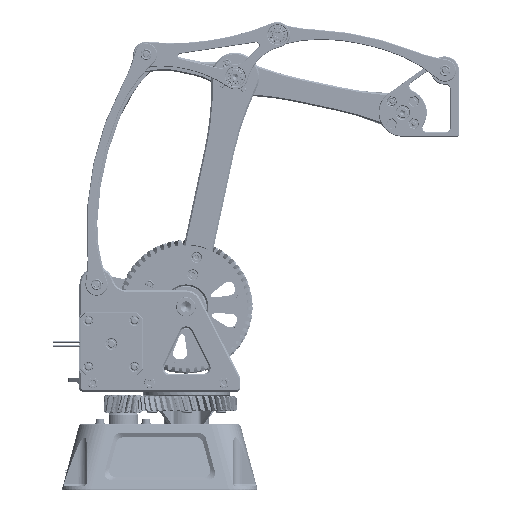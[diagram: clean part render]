
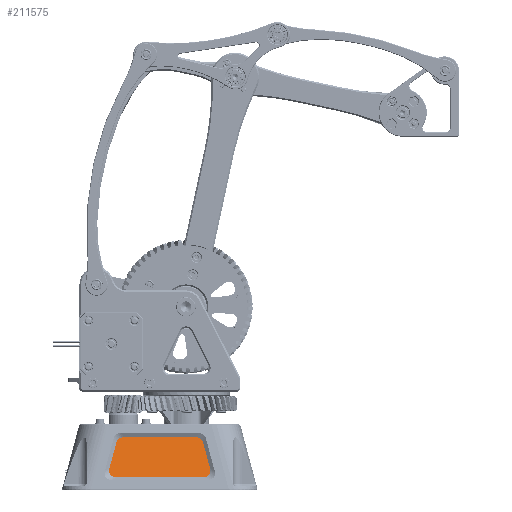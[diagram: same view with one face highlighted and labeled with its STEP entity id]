
A CAD part, front view. The second image highlights one B-rep face of the part: STEP entity #211575.
In plain terms, the highlighted planar face has unit normal (0, -0.966, 0.259).
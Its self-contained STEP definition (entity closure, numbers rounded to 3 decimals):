
#8583=ELLIPSE('',#227054,14.47,8.);
#8584=ELLIPSE('',#227055,14.47,8.);
#8585=ELLIPSE('',#227056,17.509,8.);
#8586=ELLIPSE('',#227057,17.509,8.);
#10800=PLANE('',#227053);
#16172=FACE_OUTER_BOUND('',#29285,.T.);
#29285=EDGE_LOOP('',(#141997,#141998,#141999,#142000,#142001,#142002,#142003,
#142004));
#57868=LINE('',#302910,#72521);
#57869=LINE('',#302914,#72522);
#57870=LINE('',#302918,#72523);
#57871=LINE('',#302921,#72524);
#72521=VECTOR('',#246223,10.);
#72522=VECTOR('',#246226,10.);
#72523=VECTOR('',#246229,10.);
#72524=VECTOR('',#246232,10.);
#87257=VERTEX_POINT('',#302906);
#87258=VERTEX_POINT('',#302907);
#87259=VERTEX_POINT('',#302909);
#87260=VERTEX_POINT('',#302911);
#87261=VERTEX_POINT('',#302913);
#87262=VERTEX_POINT('',#302915);
#87263=VERTEX_POINT('',#302917);
#87264=VERTEX_POINT('',#302919);
#108853=EDGE_CURVE('',#87257,#87258,#8583,.T.);
#108854=EDGE_CURVE('',#87259,#87258,#57868,.F.);
#108855=EDGE_CURVE('',#87259,#87260,#8584,.T.);
#108856=EDGE_CURVE('',#87261,#87260,#57869,.F.);
#108857=EDGE_CURVE('',#87261,#87262,#8585,.T.);
#108858=EDGE_CURVE('',#87263,#87262,#57870,.F.);
#108859=EDGE_CURVE('',#87263,#87264,#8586,.T.);
#108860=EDGE_CURVE('',#87257,#87264,#57871,.F.);
#141997=ORIENTED_EDGE('',*,*,#108853,.T.);
#141998=ORIENTED_EDGE('',*,*,#108854,.F.);
#141999=ORIENTED_EDGE('',*,*,#108855,.T.);
#142000=ORIENTED_EDGE('',*,*,#108856,.F.);
#142001=ORIENTED_EDGE('',*,*,#108857,.T.);
#142002=ORIENTED_EDGE('',*,*,#108858,.F.);
#142003=ORIENTED_EDGE('',*,*,#108859,.T.);
#142004=ORIENTED_EDGE('',*,*,#108860,.F.);
#211575=ADVANCED_FACE('',(#16172),#10800,.F.);
#227053=AXIS2_PLACEMENT_3D('',#302905,#246219,#246220);
#227054=AXIS2_PLACEMENT_3D('',#302908,#246221,#246222);
#227055=AXIS2_PLACEMENT_3D('',#302912,#246224,#246225);
#227056=AXIS2_PLACEMENT_3D('',#302916,#246227,#246228);
#227057=AXIS2_PLACEMENT_3D('',#302920,#246230,#246231);
#246219=DIRECTION('center_axis',(0.,0.966,
-0.259));
#246220=DIRECTION('ref_axis',(0.,0.259,0.966));
#246221=DIRECTION('center_axis',(0.,-0.966,
0.259));
#246222=DIRECTION('ref_axis',(0.612,0.205,0.764));
#246223=DIRECTION('',(-1.,0.,0.));
#246224=DIRECTION('center_axis',(0.,-0.966,
0.259));
#246225=DIRECTION('ref_axis',(-0.612,0.205,0.764));
#246226=DIRECTION('',(-0.251,-0.251,-0.935));
#246227=DIRECTION('center_axis',(0.,-0.966,
0.259));
#246228=DIRECTION('ref_axis',(-0.791,-0.158,-0.591));
#246229=DIRECTION('',(1.,0.,0.));
#246230=DIRECTION('center_axis',(0.,-0.966,
0.259));
#246231=DIRECTION('ref_axis',(0.791,-0.158,-0.591));
#246232=DIRECTION('',(-0.251,0.251,0.935));
#302905=CARTESIAN_POINT('Origin',(39.,-81.377,-169.927));
#302906=CARTESIAN_POINT('',(68.189,-78.783,-160.247));
#302907=CARTESIAN_POINT('',(63.211,-77.786,-156.525));
#302908=CARTESIAN_POINT('Origin',(57.557,-81.007,-168.547));
#302909=CARTESIAN_POINT('',(14.789,-77.786,-156.525));
#302910=CARTESIAN_POINT('',(23.982,-77.786,-156.525));
#302911=CARTESIAN_POINT('',(9.811,-78.783,-160.247));
#302912=CARTESIAN_POINT('Origin',(20.443,-81.007,-168.547));
#302913=CARTESIAN_POINT('',(5.291,-83.304,-177.117));
#302914=CARTESIAN_POINT('',(6.034,-82.561,-174.344));
#302915=CARTESIAN_POINT('',(10.269,-84.968,-183.329));
#302916=CARTESIAN_POINT('Origin',(19.703,-81.747,-171.307));
#302917=CARTESIAN_POINT('',(67.731,-84.968,-183.329));
#302918=CARTESIAN_POINT('',(58.226,-84.968,-183.329));
#302919=CARTESIAN_POINT('',(72.709,-83.304,-177.117));
#302920=CARTESIAN_POINT('Origin',(58.297,-81.747,-171.307));
#302921=CARTESIAN_POINT('',(67.758,-78.353,-158.64));
